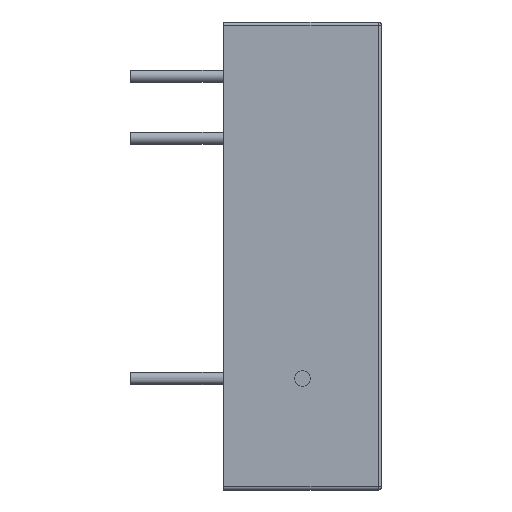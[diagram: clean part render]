
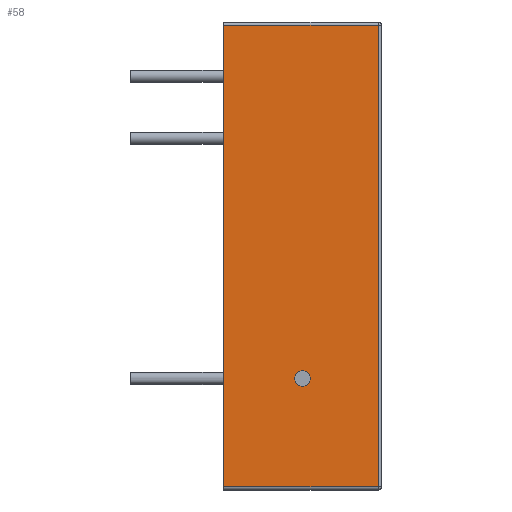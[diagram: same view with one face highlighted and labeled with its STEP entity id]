
A CAD part, left-side view. The second image highlights one B-rep face of the part: STEP entity #58.
In plain terms, the highlighted planar face has unit normal (-1, 0, 0).
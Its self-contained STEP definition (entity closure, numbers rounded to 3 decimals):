
#58=ADVANCED_FACE('',(#1921,#1923),#1925,.T.);
#1921=FACE_BOUND('',#1922,.T.);
#1922=EDGE_LOOP('',(#3410,#3411,#3412,#3413));
#1923=FACE_BOUND('',#1924,.T.);
#1924=EDGE_LOOP('',(#3414));
#1925=PLANE('',#1926);
#1926=AXIS2_PLACEMENT_3D('',#1927,#1928,#1929);
#1927=CARTESIAN_POINT('',(-20.1,0.,-15.1));
#1928=DIRECTION('',(-1.,0.,0.));
#1929=DIRECTION('',(0.,0.,1.));
#3410=ORIENTED_EDGE('',*,*,#4520,.T.);
#3411=ORIENTED_EDGE('',*,*,#4521,.T.);
#3412=ORIENTED_EDGE('',*,*,#4522,.F.);
#3413=ORIENTED_EDGE('',*,*,#4523,.F.);
#3414=ORIENTED_EDGE('',*,*,#4524,.T.);
#4520=EDGE_CURVE('',#5075,#5076,#5077,.T.);
#4521=EDGE_CURVE('',#5076,#5078,#5079,.T.);
#4522=EDGE_CURVE('',#5080,#5078,#5081,.T.);
#4523=EDGE_CURVE('',#5075,#5080,#5082,.T.);
#4524=EDGE_CURVE('',#5083,#5083,#5084,.F.);
#5075=VERTEX_POINT('',#6000);
#5076=VERTEX_POINT('',#6001);
#5077=LINE('',#6002,#6003);
#5078=VERTEX_POINT('',#6005);
#5079=LINE('',#6006,#6007);
#5080=VERTEX_POINT('',#6009);
#5081=LINE('',#6010,#6011);
#5082=LINE('',#6013,#6014);
#5083=VERTEX_POINT('',#6016);
#5084=CIRCLE('',#6017,0.5);
#6000=CARTESIAN_POINT('',(-20.1,0.2,-14.9));
#6001=CARTESIAN_POINT('',(-20.1,0.2,14.9));
#6002=CARTESIAN_POINT('',(-20.1,0.2,-14.9));
#6003=VECTOR('',#6004,1.);
#6004=DIRECTION('',(0.,0.,1.));
#6005=CARTESIAN_POINT('',(-20.1,10.2,14.9));
#6006=CARTESIAN_POINT('',(-20.1,0.2,14.9));
#6007=VECTOR('',#6008,1.);
#6008=DIRECTION('',(0.,1.,0.));
#6009=CARTESIAN_POINT('',(-20.1,10.2,-14.9));
#6010=CARTESIAN_POINT('',(-20.1,10.2,-14.9));
#6011=VECTOR('',#6012,1.);
#6012=DIRECTION('',(0.,0.,1.));
#6013=CARTESIAN_POINT('',(-20.1,0.2,-14.9));
#6014=VECTOR('',#6015,1.);
#6015=DIRECTION('',(0.,1.,0.));
#6016=CARTESIAN_POINT('',(-20.1,5.1,-8.4));
#6017=AXIS2_PLACEMENT_3D('',#6018,#6019,#6020);
#6018=CARTESIAN_POINT('',(-20.1,5.1,-7.9));
#6019=DIRECTION('',(-1.,0.,0.));
#6020=DIRECTION('',(0.,0.,-1.));
